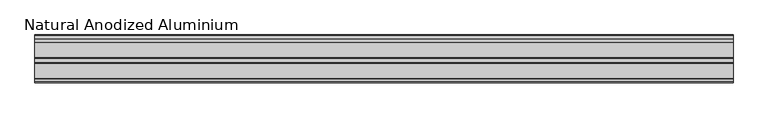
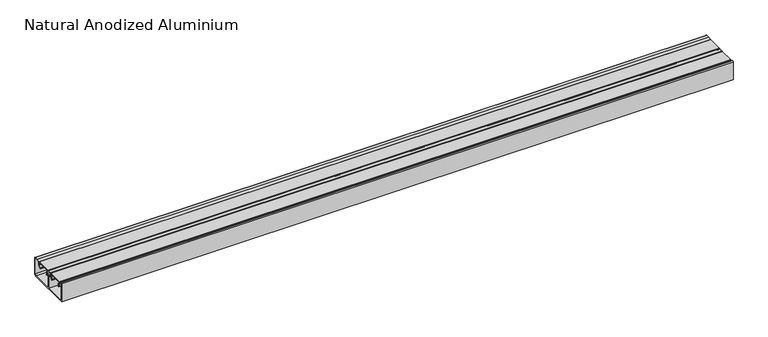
"""IFC4 building model written with IfcOpenShell, lengths in millimetres: proxy geometry, Electrical_Installations_Hager_GBA-Flat-Lid-End-Cap : Natural Anodized Aluminium."""

import ifcopenshell
import ifcopenshell.guid

model = None  # the IFC model being written
_history = None  # IfcOwnerHistory: only IFC2X3 demands one
_inside = {}  # id of a spatial element -> (the spatial element, [elements in it])
_under = {}  # id of a project, library or spatial element -> (it, [spatial elements below it])
_declared = {}  # id of a project -> (the project, [libraries it declares])
_typed = {}  # id of a type object -> (the type object, [elements of that type])
_made_of = {}  # id of a material, layer set ... -> (it, [elements and type objects made of it])


def new_model(schema):
    """Start an empty IFC model of exactly this schema.

    Asked for "IFC4X3", IfcOpenShell would pick the latest addendum, in which some entities
    have other attributes; the version numbers below select the first issue.
    IFC2X3 requires an IfcOwnerHistory on every rooted entity: one is made here for all.
    """
    global model, _history
    if schema == "IFC4X3":
        model = ifcopenshell.file(schema_version=(4, 3, 0, 0))
    else:
        model = ifcopenshell.file(schema=schema)
    _inside.clear()
    _under.clear()
    _declared.clear()
    _typed.clear()
    _made_of.clear()
    _history = None
    if model.schema == "IFC2X3":
        org = make("IfcOrganization", Name="unknown")
        user = make(
            "IfcPersonAndOrganization",
            ThePerson=make("IfcPerson", FamilyName="unknown"),
            TheOrganization=org,
        )
        app = make(
            "IfcApplication",
            ApplicationDeveloper=org,
            Version="unknown",
            ApplicationFullName="unknown",
            ApplicationIdentifier="unknown",
        )
        _history = make(
            "IfcOwnerHistory",
            OwningUser=user,
            OwningApplication=app,
            ChangeAction="ADDED",
            CreationDate=0,
        )
    return model


def make(cls, **values):
    """One entity of the class cls with the attributes given. An attribute that is None is left unset."""
    return model.create_entity(
        cls, **{name: value for name, value in values.items() if value is not None}
    )


def rooted(cls, **values):
    """An entity with a GlobalId (a new one), such as an element, a storey or a relation."""
    return make(cls, GlobalId=ifcopenshell.guid.new(), OwnerHistory=_history, **values)


def si_unit(unit_type, name, prefix=None):
    """IfcSIUnit, for example si_unit("LENGTHUNIT", "METRE", prefix="MILLI")."""
    return make("IfcSIUnit", UnitType=unit_type, Prefix=prefix, Name=name)


def assignment(units):
    """IfcUnitAssignment: the units of a project."""
    return None if units is None else make("IfcUnitAssignment", Units=units)


def point(xyz):
    """IfcCartesianPoint."""
    return None if xyz is None else make("IfcCartesianPoint", Coordinates=xyz)


def direction(xyz):
    """IfcDirection."""
    return None if xyz is None else make("IfcDirection", DirectionRatios=xyz)


def frame(location, z_axis=None, x_axis=None):
    """IfcAxis2Placement3D, a coordinate frame: its origin and axes. An axis left out is left unset."""
    return make(
        "IfcAxis2Placement3D",
        Location=point(location),
        Axis=direction(z_axis),
        RefDirection=direction(x_axis),
    )


def frame_2d(location, x_axis=None):
    """IfcAxis2Placement2D, a coordinate frame in the plane: its origin and x axis."""
    return make(
        "IfcAxis2Placement2D", Location=point(location), RefDirection=direction(x_axis)
    )


def origin():
    """The frame at (0, 0, 0) with its axes left unset."""
    return frame((0.0, 0.0, 0.0))


def place(relative_to, where):
    """IfcLocalPlacement: puts the frame where relative to a parent placement (None: the world)."""
    return make(
        "IfcLocalPlacement", PlacementRelTo=relative_to, RelativePlacement=where
    )


def context(
    kind, dimensions, precision=None, world=None, true_north=None, identifier=None
):
    """IfcGeometricRepresentationContext, for example the 3D "Model" context."""
    return make(
        "IfcGeometricRepresentationContext",
        ContextIdentifier=identifier,
        ContextType=kind,
        CoordinateSpaceDimension=dimensions,
        Precision=precision,
        WorldCoordinateSystem=world,
        TrueNorth=true_north,
    )


def project(units=None, contexts=None):
    """IfcProject with its units and contexts."""
    return rooted(
        "IfcProject",
        Name="project",
        RepresentationContexts=contexts,
        UnitsInContext=assignment(units),
    )


def spatial(cls, under=None, at=None, **own):
    """A site, building, storey or space (cls), placed at a placement, below another one or the project."""
    s = rooted(cls, ObjectPlacement=at, **own)
    if under is not None:
        _under.setdefault(under.id(), (under, []))[1].append(s)
    return s


def polyline(points):
    """IfcPolyline through the points."""
    return make("IfcPolyline", Points=[point(p) for p in points])


def circle_curve(where, radius):
    """IfcCircle in the frame where."""
    return make("IfcCircle", Position=where, Radius=radius)


def trimmed(basis, trim1, trim2, sense, master):
    """IfcTrimmedCurve: the piece of a basis curve between two trims."""
    return make(
        "IfcTrimmedCurve",
        BasisCurve=basis,
        Trim1=trim1,
        Trim2=trim2,
        SenseAgreement=sense,
        MasterRepresentation=master,
    )


def segment(curve, same_sense, transition):
    """IfcCompositeCurveSegment."""
    return make(
        "IfcCompositeCurveSegment",
        Transition=transition,
        SameSense=same_sense,
        ParentCurve=curve,
    )


def composite_curve(segments, self_intersect=None):
    """IfcCompositeCurve: segments joined end to end."""
    return make("IfcCompositeCurve", Segments=segments, SelfIntersect=self_intersect)


def outline(outer, holes=None, kind="AREA"):
    """IfcArbitraryClosedProfileDef: a profile drawn as a closed curve; with holes, ...WithVoids."""
    if holes is None:
        return make("IfcArbitraryClosedProfileDef", ProfileType=kind, OuterCurve=outer)
    return make(
        "IfcArbitraryProfileDefWithVoids",
        ProfileType=kind,
        OuterCurve=outer,
        InnerCurves=holes,
    )


def extrude(swept, where, along, depth):
    """IfcExtrudedAreaSolid: the profile swept, set in the frame where, extruded along a direction by depth."""
    return make(
        "IfcExtrudedAreaSolid",
        SweptArea=swept,
        Position=where,
        ExtrudedDirection=direction(along),
        Depth=depth,
    )


def shape(context_of_items, identifier, shape_type, items):
    """IfcShapeRepresentation: the items that make up one representation, for example the "Body"."""
    return make(
        "IfcShapeRepresentation",
        ContextOfItems=context_of_items,
        RepresentationIdentifier=identifier,
        RepresentationType=shape_type,
        Items=items,
    )


def source(mapping_origin, context_of_items, identifier, shape_type, items):
    """IfcRepresentationMap: a shape defined once, which mapped items show again and again."""
    return make(
        "IfcRepresentationMap",
        MappingOrigin=mapping_origin,
        MappedRepresentation=shape(context_of_items, identifier, shape_type, items),
    )


def transform(
    local_origin,
    x_axis=None,
    y_axis=None,
    z_axis=None,
    scale=None,
    scale2=None,
    scale3=None,
    uniform=True,
):
    """IfcCartesianTransformationOperator3D, or its non-uniform kind. x_axis, y_axis, z_axis: its Axis1, 2, 3."""
    if uniform:
        return make(
            "IfcCartesianTransformationOperator3D",
            Axis1=direction(x_axis),
            Axis2=direction(y_axis),
            LocalOrigin=point(local_origin),
            Scale=scale,
            Axis3=direction(z_axis),
        )
    return make(
        "IfcCartesianTransformationOperator3DnonUniform",
        Axis1=direction(x_axis),
        Axis2=direction(y_axis),
        LocalOrigin=point(local_origin),
        Scale=scale,
        Axis3=direction(z_axis),
        Scale2=scale2,
        Scale3=scale3,
    )


def mapped(mapping_source, mapping_target):
    """IfcMappedItem: shows the shape of a source again, moved by a transform."""
    return make(
        "IfcMappedItem", MappingSource=mapping_source, MappingTarget=mapping_target
    )


def made_of(thing, what):
    """Note that an element or type object is made of a material, layer set ...; save() writes the relation."""
    if what is not None:
        _made_of.setdefault(what.id(), (what, []))[1].append(thing)
    return thing


def element(
    cls,
    number,
    at=None,
    inside=None,
    cuts=None,
    type_object=None,
    material=None,
    context=None,
    identifier="Body",
    shape_type=None,
    held_by="IfcProductDefinitionShape",
    body=None,
    shapes=None,
    **own,
):
    """One element of the class cls, such as IfcWall. Its Tag is "e" and its number.

    at: its placement. inside: the storey or other place that contains it. cuts: it is an
    opening in that element (IfcRelVoidsElement). A single representation is given by context,
    identifier, shape_type and body (its items); several are given by shapes. held_by: the class
    of the entity that holds the representations. save() writes the other relations.
    """
    e = rooted(cls, Tag="e%d" % number, ObjectPlacement=at, **own)
    if body is not None:
        shapes = [shape(context, identifier, shape_type, body)]
    if shapes is not None:
        e.Representation = make(held_by, Representations=shapes)
    if inside is not None:
        _inside.setdefault(inside.id(), (inside, []))[1].append(e)
    if cuts is not None:
        rooted(
            "IfcRelVoidsElement", RelatingBuildingElement=cuts, RelatedOpeningElement=e
        )
    if type_object is not None:
        _typed.setdefault(type_object.id(), (type_object, []))[1].append(e)
    return made_of(e, material)


def aggregate(whole, parts):
    """IfcRelAggregates: a whole, such as a stair, and the parts it consists of."""
    return rooted("IfcRelAggregates", RelatingObject=whole, RelatedObjects=parts)


def save(model, path):
    """Write the relations noted so far, then the file.

    IfcRelAggregates (storeys below a building ...), IfcRelContainedInSpatialStructure (elements
    in a storey), IfcRelDefinesByType, IfcRelAssociatesMaterial and IfcRelDeclares: one each for
    every whole, place, type object, material and project.
    """
    for whole, parts in _under.values():
        aggregate(whole, parts)
    for where, things in _inside.values():
        rooted(
            "IfcRelContainedInSpatialStructure",
            RelatedElements=things,
            RelatingStructure=where,
        )
    for kind, things in _typed.values():
        rooted("IfcRelDefinesByType", RelatedObjects=things, RelatingType=kind)
    for what, things in _made_of.values():
        rooted("IfcRelAssociatesMaterial", RelatedObjects=things, RelatingMaterial=what)
    for by, libraries in _declared.values():
        rooted("IfcRelDeclares", RelatingContext=by, RelatedDefinitions=libraries)
    model.write(path)


def natural_anodized_aluminium_e942fa28(model_context):
    return source(origin(), model_context, "Body", "SweptSolid", [
        extrude(outline(composite_curve([segment(polyline([(-64.6976563, 54.0894343), (-64.6976563, 2.0), (-2.2476563, 2.0), (-2.2476563, 38.3324137), (-0.2476563, 49.6749773), (-0.2476563, 52.0), (-9.8476563, 52.0), (-9.8476563, 41.5012147), (-14.5382813, 41.5012147), (-14.5382813, 45.748101), (-13.5382813, 45.748101), (-13.5382813, 42.9887147), (-11.6476563, 42.9887147), (-11.6476563, 53.0031102)]), True, "CONTINUOUS"), segment(trimmed(circle_curve(frame_2d((-10.6507665, 53.0031102)), 0.9968898), [point((-11.6476563, 53.0031102))], [point((-10.6507665, 54.0))], False, "CARTESIAN"), True, "CONTINUOUS"), segment(polyline([(-10.6507665, 54.0), (0.7441474, 54.0)]), True, "CONTINUOUS"), segment(trimmed(circle_curve(frame_2d((0.7441474, 52.9918037)), 1.0081963), [point((0.7441474, 54.0))], [point((1.7523437, 52.9918037))], False, "CARTESIAN"), True, "CONTINUOUS"), segment(polyline([(1.7523437, 52.9918037), (1.7523437, 49.5), (0.6591165, 43.3), (3.2523437, 43.3), (3.2523437, 45.7537431), (4.2523437, 45.7537431), (4.2523437, 41.5), (0.3417279, 41.5), (-0.2476563, 38.1574364), (-0.2476563, 2.0), (60.5496526, 2.0), (64.5023437, 5.9526912), (64.5023437, 54.2), (54.8614746, 54.2), (48.5523437, 52.1500391), (48.5523437, 41.5), (44.2523437, 41.5), (44.2523437, 45.7556921), (45.2523437, 45.7556921), (45.2523437, 42.9887147), (46.7523437, 42.9887147), (46.7523437, 53.9835468), (54.4971904, 56.5), (64.8989144, 56.5)]), True, "CONTINUOUS"), segment(trimmed(circle_curve(frame_2d((64.8989144, 54.5965707)), 1.9034293), [point((64.8989144, 56.5))], [point((66.8023437, 54.5965707))], False, "CARTESIAN"), True, "CONTINUOUS"), segment(polyline([(66.8023437, 54.5965707), (66.8023437, 5.0), (61.8023437, 0.0), (-66.9976563, 0.0), (-66.9976563, 54.4045249)]), True, "CONTINUOUS"), segment(trimmed(circle_curve(frame_2d((-64.9278927, 54.4045249)), 2.0697636), [point((-66.9976563, 54.4045249))], [point((-64.2989994, 56.3764312))], False, "CARTESIAN"), True, "CONTINUOUS"), segment(polyline([(-64.2989994, 56.3764312), (-56.8429688, 53.998505), (-56.8429688, 42.9887147), (-54.6789063, 42.9887147), (-54.6789063, 45.7565885), (-53.6789063, 45.7565885), (-53.6789063, 41.5012147), (-58.4476563, 41.5012147), (-58.4476563, 52.0961433), (-64.6976563, 54.0894343)]), True, "CONTINUOUS")], self_intersect=False)), frame((0.0, 0.0, 0.0), z_axis=(1.0, 0.0, 0.0), x_axis=(0.0, 1.0, 0.0)), (0.0, 0.0, 1.0), 1947.3625),
        extrude(outline(composite_curve([segment(polyline([(-13.1613464, 52.5816445), (-55.0613464, 52.5816445), (-55.0613464, 49.2816445), (-53.7229555, 49.2816445)]), True, "CONTINUOUS"), segment(trimmed(circle_curve(frame_2d((-53.7229555, 47.1700354)), 2.1116091), [point((-53.7229555, 49.2816445))], [point((-51.6113464, 47.1700354))], False, "CARTESIAN"), True, "CONTINUOUS"), segment(polyline([(-51.6113464, 47.1700354), (-51.6113464, 37.6816445), (-49.7113464, 37.6816445), (-49.7113464, 36.8816445), (-52.6113464, 36.8816445), (-52.6113464, 47.3262929)]), True, "CONTINUOUS"), segment(trimmed(circle_curve(frame_2d((-53.566698, 47.3262929)), 0.9553516), [point((-52.6113464, 47.3262929))], [point((-53.566698, 48.2816445))], True, "CARTESIAN"), True, "CONTINUOUS"), segment(polyline([(-53.566698, 48.2816445), (-55.3644879, 48.2816445), (-55.3644879, 43.8012242), (-56.3660339, 43.8012242), (-56.3660339, 53.0900381)]), True, "CONTINUOUS"), segment(trimmed(circle_curve(frame_2d((-55.456072, 53.0900381)), 0.9099619), [point((-56.3660339, 53.0900381))], [point((-55.456072, 54.0))], False, "CARTESIAN"), True, "CONTINUOUS"), segment(polyline([(-55.456072, 54.0), (-12.9820268, 54.0)]), True, "CONTINUOUS"), segment(trimmed(circle_curve(frame_2d((-12.9820268, 52.9918196)), 1.0081804), [point((-12.9820268, 54.0))], [point((-11.9738464, 52.9918196))], False, "CARTESIAN"), True, "CONTINUOUS"), segment(polyline([(-11.9738464, 52.9918196), (-11.9738464, 43.8012242), (-12.858205, 43.8012242), (-12.858205, 48.2816445), (-14.6025892, 48.2816445)]), True, "CONTINUOUS"), segment(trimmed(circle_curve(frame_2d((-14.6025892, 47.2728873)), 1.0087572), [point((-14.6025892, 48.2816445))], [point((-15.6113464, 47.2728873))], True, "CARTESIAN"), True, "CONTINUOUS"), segment(polyline([(-15.6113464, 47.2728873), (-15.6113464, 36.8816445), (-18.5113464, 36.8816445), (-18.5113464, 37.6816445), (-16.6113464, 37.6816445), (-16.6113464, 47.3197896)]), True, "CONTINUOUS"), segment(trimmed(circle_curve(frame_2d((-14.6494915, 47.3197896)), 1.9618549), [point((-16.6113464, 47.3197896))], [point((-14.6494915, 49.2816445))], False, "CARTESIAN"), True, "CONTINUOUS"), segment(polyline([(-14.6494915, 49.2816445), (-13.1613464, 49.2816445), (-13.1613464, 52.5816445)]), True, "CONTINUOUS")], self_intersect=False)), frame((0.0, 0.0, 0.0), z_axis=(1.0, 0.0, 0.0), x_axis=(0.0, 1.0, 0.0)), (0.0, 0.0, 1.0), 1947.3625),
        extrude(outline(composite_curve([segment(polyline([(45.1923672, 52.5816445), (3.2923672, 52.5816445), (3.2923672, 49.2816445), (4.6307581, 49.2816445)]), True, "CONTINUOUS"), segment(trimmed(circle_curve(frame_2d((4.6307581, 47.1700354)), 2.1116091), [point((4.6307581, 49.2816445))], [point((6.7423672, 47.1700354))], False, "CARTESIAN"), True, "CONTINUOUS"), segment(polyline([(6.7423672, 47.1700354), (6.7423672, 37.6816445), (8.6423672, 37.6816445), (8.6423672, 36.8816445), (5.7423672, 36.8816445), (5.7423672, 47.3262929)]), True, "CONTINUOUS"), segment(trimmed(circle_curve(frame_2d((4.7870156, 47.3262929)), 0.9553516), [point((5.7423672, 47.3262929))], [point((4.7870156, 48.2816445))], True, "CARTESIAN"), True, "CONTINUOUS"), segment(polyline([(4.7870156, 48.2816445), (2.9892258, 48.2816445), (2.9892258, 43.8231023), (1.9876797, 43.8231023), (1.9876797, 53.0900381)]), True, "CONTINUOUS"), segment(trimmed(circle_curve(frame_2d((2.8976417, 53.0900381)), 0.9099619), [point((1.9876797, 53.0900381))], [point((2.8976417, 54.0))], False, "CARTESIAN"), True, "CONTINUOUS"), segment(polyline([(2.8976417, 54.0), (45.3716869, 54.0)]), True, "CONTINUOUS"), segment(trimmed(circle_curve(frame_2d((45.3716869, 52.9918196)), 1.0081804), [point((45.3716869, 54.0))], [point((46.3798672, 52.9918196))], False, "CARTESIAN"), True, "CONTINUOUS"), segment(polyline([(46.3798672, 52.9918196), (46.3798672, 43.9733035), (45.4955087, 43.9733035), (45.4955087, 48.2816445), (43.7511244, 48.2816445)]), True, "CONTINUOUS"), segment(trimmed(circle_curve(frame_2d((43.7511244, 47.2728873)), 1.0087572), [point((43.7511244, 48.2816445))], [point((42.7423672, 47.2728873))], True, "CARTESIAN"), True, "CONTINUOUS"), segment(polyline([(42.7423672, 47.2728873), (42.7423672, 36.8816445), (39.8423672, 36.8816445), (39.8423672, 37.6816445), (41.7423672, 37.6816445), (41.7423672, 47.3197896)]), True, "CONTINUOUS"), segment(trimmed(circle_curve(frame_2d((43.7042221, 47.3197896)), 1.9618549), [point((41.7423672, 47.3197896))], [point((43.7042221, 49.2816445))], False, "CARTESIAN"), True, "CONTINUOUS"), segment(polyline([(43.7042221, 49.2816445), (45.1923672, 49.2816445), (45.1923672, 52.5816445)]), True, "CONTINUOUS")], self_intersect=False)), frame((0.0, 0.0, 0.0), z_axis=(1.0, 0.0, 0.0), x_axis=(0.0, 1.0, 0.0)), (0.0, 0.0, 1.0), 1947.3625),
    ])


if __name__ == "__main__":
    model = new_model("IFC4")
    model_context = context("Model", 3, world=origin())
    ifc_project = project(units=[si_unit("LENGTHUNIT", "METRE", prefix="MILLI")], contexts=[model_context])
    site = spatial("IfcSite", under=ifc_project)
    building = spatial("IfcBuilding", under=site)
    placement = place(None, origin())
    natural_anodized_aluminium_shape = natural_anodized_aluminium_e942fa28(model_context)
    element("IfcBuildingElementProxy", 1, Name="Electrical_Installations_Hager_GBA-Flat-Lid-End-Cap : Natural Anodized Aluminium", ObjectType="Electrical_Installations_Hager_GBA-Flat-Lid-End-Cap : Natural Anodized Aluminium", at=placement, inside=building, context=model_context, shape_type="MappedRepresentation", body=[
        mapped(natural_anodized_aluminium_shape, transform((0.0, 0.0, 0.0), x_axis=(1.0, 0.0, 0.0), y_axis=(0.0, 1.0, 0.0), z_axis=(0.0, 0.0, 1.0))),
    ])
    save(model, "model.ifc")
